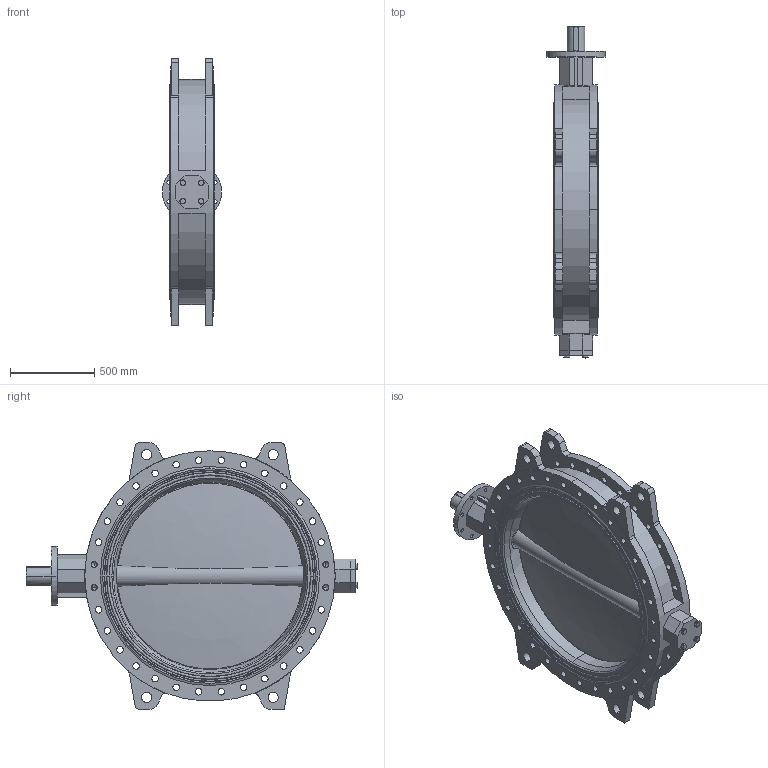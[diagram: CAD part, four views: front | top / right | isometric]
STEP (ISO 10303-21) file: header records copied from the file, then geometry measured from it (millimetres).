
FILE_DESCRIPTION (( 'STEP AP203' ), '1' );
FILE_NAME ('4831091_Axel-Larsson.step', '2023-10-04T13:41:11', ( '' ), ( '' ), 'SwSTEP 2.0', 'SolidWorks 2014', '' );
FILE_SCHEMA (( 'CONFIG_CONTROL_DESIGN' ));
Length unit declared in the file: millimetre
Products named in the file (14): 924U12000_PN10.sldasm-Part-4; 924U12000_PN10.sldasm-Part-5; 924U12000_PN10.sldasm-Part-8; 924U12000_PN10.sldasm-Part-2; 924U12000_PN10.sldasm-Part-10; 924U12000_PN10.sldasm-Part-6; 924U12000_PN10.sldasm-Part-9; 924U12000_PN10.sldasm-Part-12; 924U12000_PN10.sldasm-Part-11; 924U12000_PN10.sldasm-Part-3; 924U12000_PN10.sldasm-Part-1; 4831091_Axel-Larsson; 924U12000_PN10-1; 924U12000_PN10.sldasm-Part-7
Assembly tree (13 placements, depth 3):
  4831091_Axel-Larsson
    924U12000_PN10-1
      924U12000_PN10.sldasm-Part-1
      924U12000_PN10.sldasm-Part-2
      924U12000_PN10.sldasm-Part-3
      924U12000_PN10.sldasm-Part-4
      924U12000_PN10.sldasm-Part-5
      924U12000_PN10.sldasm-Part-6
      924U12000_PN10.sldasm-Part-7
      924U12000_PN10.sldasm-Part-8
      924U12000_PN10.sldasm-Part-9
      924U12000_PN10.sldasm-Part-10
      924U12000_PN10.sldasm-Part-11
      924U12000_PN10.sldasm-Part-12
Bounding box: 350 x 1969.2 x 1580 mm (x, y, z)
Volume: 228449768.3 mm3; surface area: 7306647 mm2
Topology: 12 solids, 16 shells, 605 faces, 1555 edges, 992 vertices
Faces by surface type: cylinder 298, plane 157, cone 90, bspline 60
Entity records: 25395 total; most frequent: CARTESIAN_POINT 8931, DIRECTION 3221, ORIENTED_EDGE 3078, EDGE_CURVE 1539, AXIS2_PLACEMENT_3D 1306, VERTEX_POINT 992, EDGE_LOOP 783, CIRCLE 744
